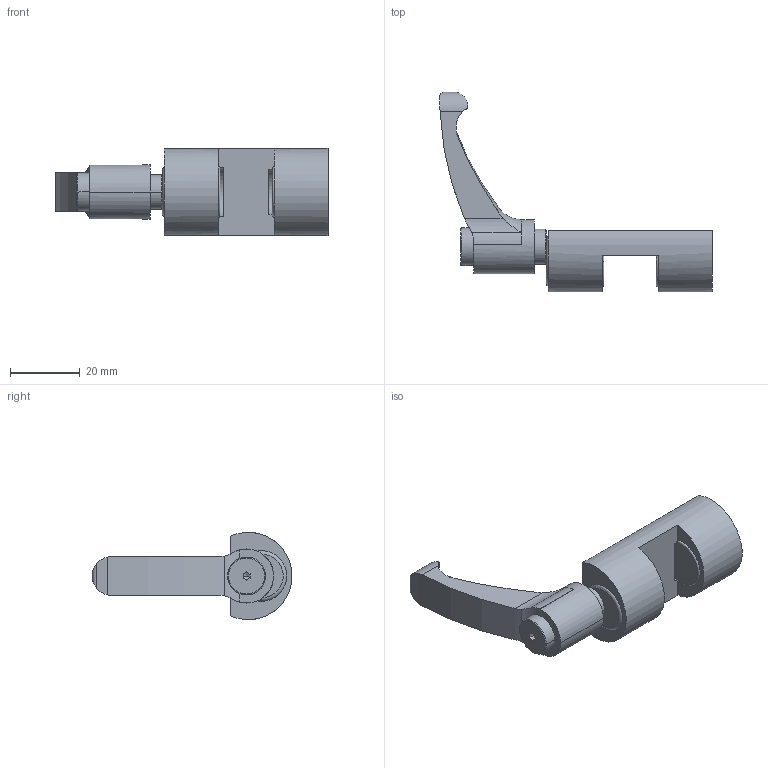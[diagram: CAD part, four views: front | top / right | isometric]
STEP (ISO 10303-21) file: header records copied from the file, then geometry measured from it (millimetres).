
FILE_DESCRIPTION((''),'2;1');
FILE_NAME('FRCMAN15T02LT','2017-07-10T10:37:49',('pietro.a'),(''),'CREO PARAMETRIC BY PTC INC, 2016510','CREO PARAMETRIC BY PTC INC, 2016510','');
FILE_SCHEMA(('CONFIG_CONTROL_DESIGN'));
Length unit declared in the file: millimetre
Products named in the file (1): FRCMAN15T02LT
Bounding box: 78 x 57.21 x 24.94 mm (x, y, z)
Volume: 20294.1 mm3; surface area: 8155.9 mm2
Topology: 1 solids, 1 shells, 123 faces, 313 edges, 187 vertices
Faces by surface type: cylinder 44, plane 36, cone 32, torus 9, bspline 2
Entity records: 3987 total; most frequent: CARTESIAN_POINT 1032, DIRECTION 631, ORIENTED_EDGE 598, EDGE_CURVE 299, AXIS2_PLACEMENT_3D 252, VERTEX_POINT 187, EDGE_LOOP 136, CIRCLE 131
